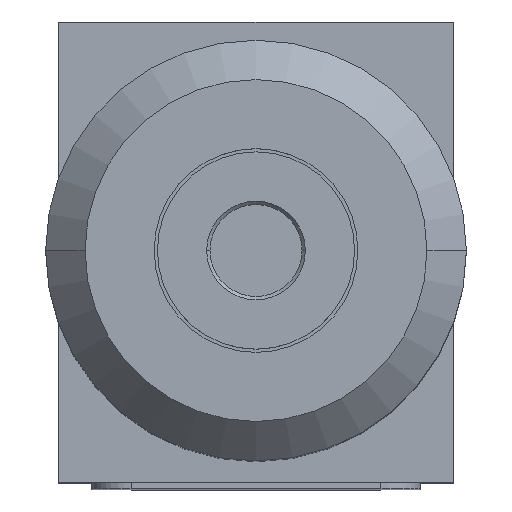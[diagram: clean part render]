
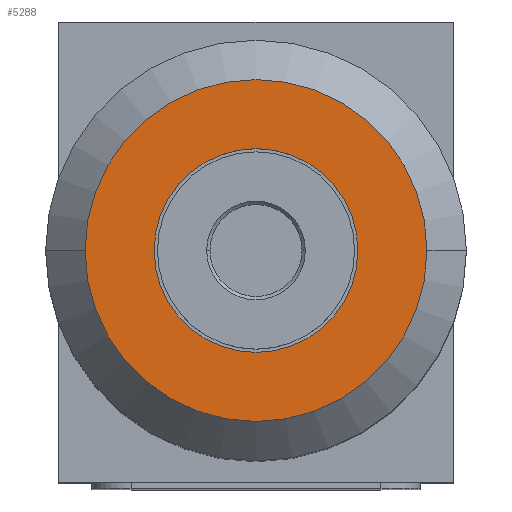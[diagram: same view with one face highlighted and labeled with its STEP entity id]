
A CAD part, top view. The second image highlights one B-rep face of the part: STEP entity #5288.
In plain terms, the highlighted planar face has unit normal (0, 0, 1).
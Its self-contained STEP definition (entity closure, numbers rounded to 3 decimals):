
#4905=CARTESIAN_POINT('',(0.,0.,96.));
#4906=DIRECTION('',(0.,0.,-1.));
#4907=DIRECTION('',(1.,0.,0.));
#4908=AXIS2_PLACEMENT_3D('',#4905,#4906,#4907);
#4920=CARTESIAN_POINT('',(0.,0.,96.));
#4921=DIRECTION('',(0.,0.,1.));
#4922=DIRECTION('',(1.,0.,0.));
#4923=AXIS2_PLACEMENT_3D('',#4920,#4921,#4922);
#4935=CARTESIAN_POINT('',(0.,0.,96.));
#4936=DIRECTION('',(0.,0.,-1.));
#4937=DIRECTION('',(1.,0.,0.));
#4938=AXIS2_PLACEMENT_3D('',#4935,#4936,#4937);
#4943=CARTESIAN_POINT('',(0.,0.,96.));
#4944=DIRECTION('',(0.,0.,1.));
#4945=DIRECTION('',(1.,0.,0.));
#4946=AXIS2_PLACEMENT_3D('',#4943,#4944,#4945);
#5200=CARTESIAN_POINT('',(7.75,0.,96.));
#5202=VERTEX_POINT('',#5200);
#5203=CARTESIAN_POINT('',(13.,0.,96.));
#5205=VERTEX_POINT('',#5203);
#5216=CARTESIAN_POINT('',(-7.75,0.,96.));
#5218=VERTEX_POINT('',#5216);
#5219=CARTESIAN_POINT('',(-13.,0.,96.));
#5221=VERTEX_POINT('',#5219);
#5273=CARTESIAN_POINT('',(0.,0.,96.));
#5274=DIRECTION('',(0.,0.,-1.));
#5275=DIRECTION('',(1.,0.,0.));
#5276=AXIS2_PLACEMENT_3D('',#5273,#5274,#5275);
#5277=PLANE('',#5276);
#5278=ORIENTED_EDGE('',*,*,#5265,.F.);
#5279=ORIENTED_EDGE('',*,*,#5254,.T.);
#5280=EDGE_LOOP('',(#5278,#5279));
#5281=FACE_OUTER_BOUND('',#5280,.F.);
#5283=ORIENTED_EDGE('',*,*,#5282,.F.);
#5285=ORIENTED_EDGE('',*,*,#5284,.T.);
#5286=EDGE_LOOP('',(#5283,#5285));
#5287=FACE_BOUND('',#5286,.F.);
#4909=CIRCLE('',#4908,13.);
#4924=CIRCLE('',#4923,13.);
#4939=CIRCLE('',#4938,7.75);
#4947=CIRCLE('',#4946,7.75);
#5254=EDGE_CURVE('',#5205,#5221,#4909,.T.);
#5265=EDGE_CURVE('',#5205,#5221,#4924,.T.);
#5282=EDGE_CURVE('',#5202,#5218,#4939,.T.);
#5284=EDGE_CURVE('',#5202,#5218,#4947,.T.);
#5288=ADVANCED_FACE('',(#5281,#5287),#5277,.F.);
